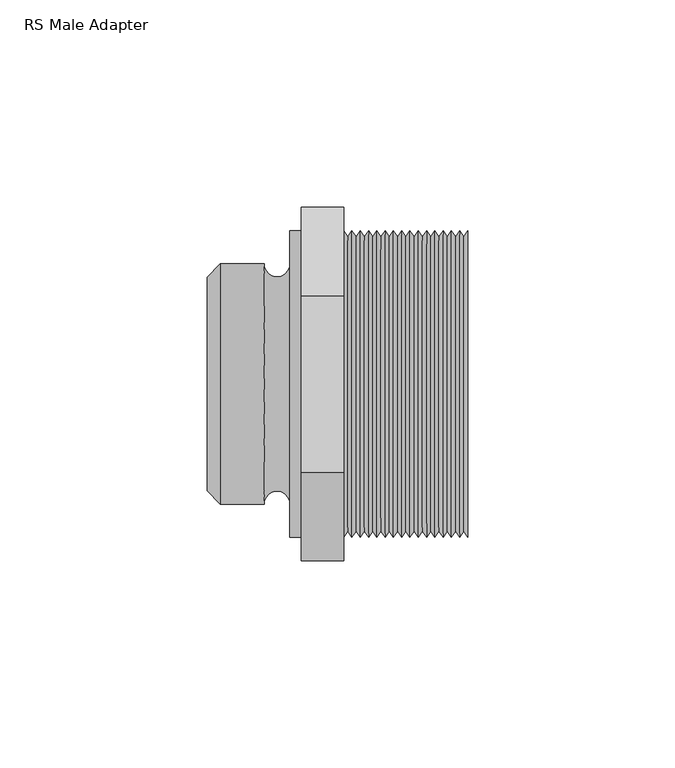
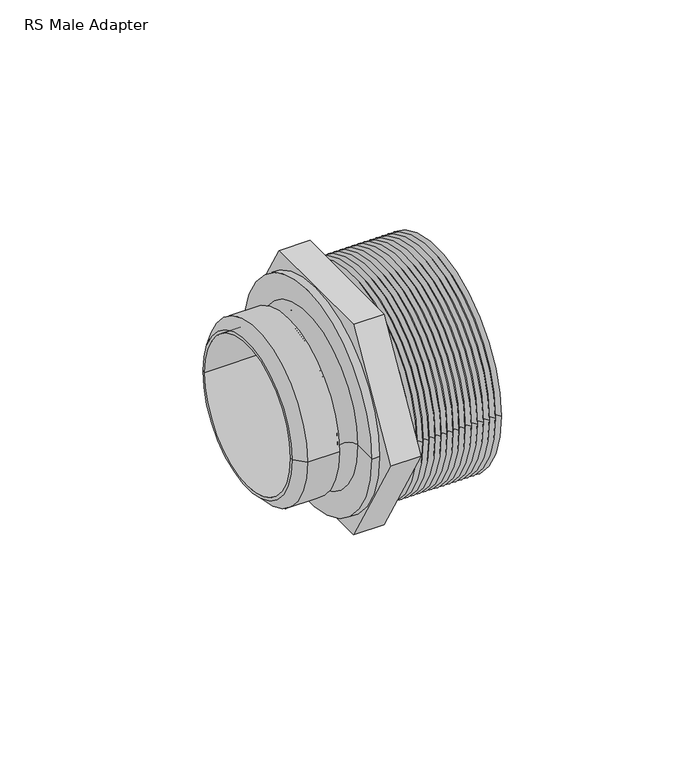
"""IFC4 building model written with IfcOpenShell, lengths in millimetres: pipe fitting geometry, RS Male Adapter : Superpipe RS2 MT Adapter  2 ½”."""

from ifc_helpers import new_model, si_unit, point, frame, origin, origin_2d, place, context, project, spatial, polyline, circle_curve, ellipse_curve, trimmed, segment, composite_curve, outline, extrude, source, transform, mapped, element, save
from ifc_brep_helpers import plane_surface, cylinder_surface, revolved_surface, advanced_brep


def rs_male_adapter_996c7fea(model_context):
    return source(origin(), model_context, "Body", "SolidModel", [
        extrude(outline(polyline([(-42.7239199, 0.0), (-21.36196, 37.0), (21.36196, 37.0), (42.7239199, 0.0), (21.36196, -37.0), (-21.36196, -37.0), (-42.7239199, 0.0)]), holes=[composite_curve([segment(trimmed(circle_curve(origin_2d(), 32.8), [point((0.0, 32.8))], [point((0.0, -32.8))], True, "CARTESIAN"), True, "CONTINUOUS"), segment(trimmed(circle_curve(origin_2d(), 32.8), [point((0.0, -32.8))], [point((0.0, 32.8))], True, "CARTESIAN"), True, "CONTINUOUS")], self_intersect=False)]), frame((22.8, 0.0, 0.0), z_axis=(1.0, 0.0, 0.0), x_axis=(0.0, 1.0, 0.0)), (0.0, 0.0, 1.0), 10.2),
        advanced_brep(
        [(63.0, -37.0, 0.0), (63.0, 37.0, 0.0), (63.0, 32.8, 0.0), (63.0, -32.8, 0.0), (33.0, -32.8, 0.0), (33.0, 32.8, 0.0), (33.0, 37.0, 0.0), (33.0, -37.0, 0.0), (62.0, -35.5, 0.0), (62.0, 35.5, 0.0), (61.0, -37.0, 0.0), (61.0, 37.0, 0.0), (60.0, -35.5, 0.0), (60.0, 35.5, 0.0), (59.0, -37.0, 0.0), (59.0, 37.0, 0.0), (58.0, -35.5, 0.0), (58.0, 35.5, 0.0), (57.0, -37.0, 0.0), (57.0, 37.0, 0.0), (56.0, -35.5, 0.0), (56.0, 35.5, 0.0), (55.0, -37.0, 0.0), (55.0, 37.0, 0.0), (54.0, -35.5, 0.0), (54.0, 35.5, 0.0), (53.0, -37.0, 0.0), (53.0, 37.0, 0.0), (52.0, -35.5, 0.0), (52.0, 35.5, 0.0), (51.0, -37.0, 0.0), (51.0, 37.0, 0.0), (50.0, -35.5, 0.0), (50.0, 35.5, 0.0), (49.0, -37.0, 0.0), (49.0, 37.0, 0.0), (48.0, -35.5, 0.0), (48.0, 35.5, 0.0), (47.0, -37.0, 0.0), (47.0, 37.0, 0.0), (46.0, -35.5, 0.0), (46.0, 35.5, 0.0), (45.0, -37.0, 0.0), (45.0, 37.0, 0.0), (44.0, -35.5, 0.0), (44.0, 35.5, 0.0), (43.0, -37.0, 0.0), (43.0, 37.0, 0.0), (42.0, -35.5, 0.0), (42.0, 35.5, 0.0), (41.0, -37.0, 0.0), (41.0, 37.0, 0.0), (40.0, -35.5, 0.0), (40.0, 35.5, 0.0), (39.0, -37.0, 0.0), (39.0, 37.0, 0.0), (38.0, -35.5, 0.0), (38.0, 35.5, 0.0), (37.0, -37.0, 0.0), (37.0, 37.0, 0.0), (36.0, -35.5, 0.0), (36.0, 35.5, 0.0), (35.0, -37.0, 0.0), (35.0, 37.0, 0.0), (34.0, -35.5, 0.0), (34.0, 35.5, 0.0)],
        [
            (0, 1, circle_curve(frame((63.0, 0.0, 0.0), z_axis=(1.0, 0.0, 0.0), x_axis=(0.0, 1.0, 0.0)), 37.0)),
            (1, 2),
            (2, 3, circle_curve(frame((63.0, 0.0, 0.0), z_axis=(-1.0, 0.0, 0.0), x_axis=(0.0, 1.0, 0.0)), 32.8)),
            (3, 0),
            (4, 5, circle_curve(frame((33.0, 0.0, 0.0), z_axis=(1.0, 0.0, 0.0), x_axis=(0.0, 1.0, 0.0)), 32.8)),
            (5, 6),
            (6, 7, circle_curve(frame((33.0, 0.0, 0.0), z_axis=(-1.0, 0.0, 0.0), x_axis=(0.0, 1.0, 0.0)), 37.0)),
            (7, 4),
            (5, 4, circle_curve(frame((33.0, 0.0, 0.0), z_axis=(1.0, 0.0, 0.0), x_axis=(0.0, 1.0, 0.0)), 32.8)),
            (7, 6, circle_curve(frame((33.0, 0.0, 0.0), z_axis=(-1.0, 0.0, 0.0), x_axis=(0.0, 1.0, 0.0)), 37.0)),
            (1, 0, circle_curve(frame((63.0, 0.0, 0.0), z_axis=(1.0, 0.0, 0.0), x_axis=(0.0, 1.0, 0.0)), 37.0)),
            (3, 2, circle_curve(frame((63.0, 0.0, 0.0), z_axis=(-1.0, 0.0, 0.0), x_axis=(0.0, 1.0, 0.0)), 32.8)),
            (2, 5),
            (4, 3),
            (8, 9, circle_curve(frame((62.0, 0.0, 0.0), z_axis=(1.0, 0.0, 0.0), x_axis=(0.0, 1.0, 0.0)), 35.5)),
            (9, 1),
            (0, 8),
            (9, 8, circle_curve(frame((62.0, 0.0, 0.0), z_axis=(1.0, 0.0, 0.0), x_axis=(0.0, 1.0, 0.0)), 35.5)),
            (10, 11, circle_curve(frame((61.0, 0.0, 0.0), z_axis=(1.0, 0.0, 0.0), x_axis=(0.0, 1.0, 0.0)), 37.0)),
            (11, 9),
            (8, 10),
            (11, 10, circle_curve(frame((61.0, 0.0, 0.0), z_axis=(1.0, 0.0, 0.0), x_axis=(0.0, 1.0, 0.0)), 37.0)),
            (12, 13, circle_curve(frame((60.0, 0.0, 0.0), z_axis=(1.0, 0.0, 0.0), x_axis=(0.0, 1.0, 0.0)), 35.5)),
            (13, 11),
            (10, 12),
            (13, 12, circle_curve(frame((60.0, 0.0, 0.0), z_axis=(1.0, 0.0, 0.0), x_axis=(0.0, 1.0, 0.0)), 35.5)),
            (14, 15, circle_curve(frame((59.0, 0.0, 0.0), z_axis=(1.0, 0.0, 0.0), x_axis=(0.0, 1.0, 0.0)), 37.0)),
            (15, 13),
            (12, 14),
            (15, 14, circle_curve(frame((59.0, 0.0, 0.0), z_axis=(1.0, 0.0, 0.0), x_axis=(0.0, 1.0, 0.0)), 37.0)),
            (16, 17, circle_curve(frame((58.0, 0.0, 0.0), z_axis=(1.0, 0.0, 0.0), x_axis=(0.0, 1.0, 0.0)), 35.5)),
            (17, 15),
            (14, 16),
            (17, 16, circle_curve(frame((58.0, 0.0, 0.0), z_axis=(1.0, 0.0, 0.0), x_axis=(0.0, 1.0, 0.0)), 35.5)),
            (18, 19, circle_curve(frame((57.0, 0.0, 0.0), z_axis=(1.0, 0.0, 0.0), x_axis=(0.0, 1.0, 0.0)), 37.0)),
            (19, 17),
            (16, 18),
            (19, 18, circle_curve(frame((57.0, 0.0, 0.0), z_axis=(1.0, 0.0, 0.0), x_axis=(0.0, 1.0, 0.0)), 37.0)),
            (20, 21, circle_curve(frame((56.0, 0.0, 0.0), z_axis=(1.0, 0.0, 0.0), x_axis=(0.0, 1.0, 0.0)), 35.5)),
            (21, 19),
            (18, 20),
            (21, 20, circle_curve(frame((56.0, 0.0, 0.0), z_axis=(1.0, 0.0, 0.0), x_axis=(0.0, 1.0, 0.0)), 35.5)),
            (22, 23, circle_curve(frame((55.0, 0.0, 0.0), z_axis=(1.0, 0.0, 0.0), x_axis=(0.0, 1.0, 0.0)), 37.0)),
            (23, 21),
            (20, 22),
            (23, 22, circle_curve(frame((55.0, 0.0, 0.0), z_axis=(1.0, 0.0, 0.0), x_axis=(0.0, 1.0, 0.0)), 37.0)),
            (24, 25, circle_curve(frame((54.0, 0.0, 0.0), z_axis=(1.0, 0.0, 0.0), x_axis=(0.0, 1.0, 0.0)), 35.5)),
            (25, 23),
            (22, 24),
            (25, 24, circle_curve(frame((54.0, 0.0, 0.0), z_axis=(1.0, 0.0, 0.0), x_axis=(0.0, 1.0, 0.0)), 35.5)),
            (26, 27, circle_curve(frame((53.0, 0.0, 0.0), z_axis=(1.0, 0.0, 0.0), x_axis=(0.0, 1.0, 0.0)), 37.0)),
            (27, 25),
            (24, 26),
            (27, 26, circle_curve(frame((53.0, 0.0, 0.0), z_axis=(1.0, 0.0, 0.0), x_axis=(0.0, 1.0, 0.0)), 37.0)),
            (28, 29, circle_curve(frame((52.0, 0.0, 0.0), z_axis=(1.0, 0.0, 0.0), x_axis=(0.0, 1.0, 0.0)), 35.5)),
            (29, 27),
            (26, 28),
            (29, 28, circle_curve(frame((52.0, 0.0, 0.0), z_axis=(1.0, 0.0, 0.0), x_axis=(0.0, 1.0, 0.0)), 35.5)),
            (30, 31, circle_curve(frame((51.0, 0.0, 0.0), z_axis=(1.0, 0.0, 0.0), x_axis=(0.0, 1.0, 0.0)), 37.0)),
            (31, 29),
            (28, 30),
            (31, 30, circle_curve(frame((51.0, 0.0, 0.0), z_axis=(1.0, 0.0, 0.0), x_axis=(0.0, 1.0, 0.0)), 37.0)),
            (32, 33, circle_curve(frame((50.0, 0.0, 0.0), z_axis=(1.0, 0.0, 0.0), x_axis=(0.0, 1.0, 0.0)), 35.5)),
            (33, 31),
            (30, 32),
            (33, 32, circle_curve(frame((50.0, 0.0, 0.0), z_axis=(1.0, 0.0, 0.0), x_axis=(0.0, 1.0, 0.0)), 35.5)),
            (34, 35, circle_curve(frame((49.0, 0.0, 0.0), z_axis=(1.0, 0.0, 0.0), x_axis=(0.0, 1.0, 0.0)), 37.0)),
            (35, 33),
            (32, 34),
            (35, 34, circle_curve(frame((49.0, 0.0, 0.0), z_axis=(1.0, 0.0, 0.0), x_axis=(0.0, 1.0, 0.0)), 37.0)),
            (36, 37, circle_curve(frame((48.0, 0.0, 0.0), z_axis=(1.0, 0.0, 0.0), x_axis=(0.0, 1.0, 0.0)), 35.5)),
            (37, 35),
            (34, 36),
            (37, 36, circle_curve(frame((48.0, 0.0, 0.0), z_axis=(1.0, 0.0, 0.0), x_axis=(0.0, 1.0, 0.0)), 35.5)),
            (38, 39, circle_curve(frame((47.0, 0.0, 0.0), z_axis=(1.0, 0.0, 0.0), x_axis=(0.0, 1.0, 0.0)), 37.0)),
            (39, 37),
            (36, 38),
            (39, 38, circle_curve(frame((47.0, 0.0, 0.0), z_axis=(1.0, 0.0, 0.0), x_axis=(0.0, 1.0, 0.0)), 37.0)),
            (40, 41, circle_curve(frame((46.0, 0.0, 0.0), z_axis=(1.0, 0.0, 0.0), x_axis=(0.0, 1.0, 0.0)), 35.5)),
            (41, 39),
            (38, 40),
            (41, 40, circle_curve(frame((46.0, 0.0, 0.0), z_axis=(1.0, 0.0, 0.0), x_axis=(0.0, 1.0, 0.0)), 35.5)),
            (42, 43, circle_curve(frame((45.0, 0.0, 0.0), z_axis=(1.0, 0.0, 0.0), x_axis=(0.0, 1.0, 0.0)), 37.0)),
            (43, 41),
            (40, 42),
            (43, 42, circle_curve(frame((45.0, 0.0, 0.0), z_axis=(1.0, 0.0, 0.0), x_axis=(0.0, 1.0, 0.0)), 37.0)),
            (44, 45, circle_curve(frame((44.0, 0.0, 0.0), z_axis=(1.0, 0.0, 0.0), x_axis=(0.0, 1.0, 0.0)), 35.5)),
            (45, 43),
            (42, 44),
            (45, 44, circle_curve(frame((44.0, 0.0, 0.0), z_axis=(1.0, 0.0, 0.0), x_axis=(0.0, 1.0, 0.0)), 35.5)),
            (46, 47, circle_curve(frame((43.0, 0.0, 0.0), z_axis=(1.0, 0.0, 0.0), x_axis=(0.0, 1.0, 0.0)), 37.0)),
            (47, 45),
            (44, 46),
            (47, 46, circle_curve(frame((43.0, 0.0, 0.0), z_axis=(1.0, 0.0, 0.0), x_axis=(0.0, 1.0, 0.0)), 37.0)),
            (48, 49, circle_curve(frame((42.0, 0.0, 0.0), z_axis=(1.0, 0.0, 0.0), x_axis=(0.0, 1.0, 0.0)), 35.5)),
            (49, 47),
            (46, 48),
            (49, 48, circle_curve(frame((42.0, 0.0, 0.0), z_axis=(1.0, 0.0, 0.0), x_axis=(0.0, 1.0, 0.0)), 35.5)),
            (50, 51, circle_curve(frame((41.0, 0.0, 0.0), z_axis=(1.0, 0.0, 0.0), x_axis=(0.0, 1.0, 0.0)), 37.0)),
            (51, 49),
            (48, 50),
            (51, 50, circle_curve(frame((41.0, 0.0, 0.0), z_axis=(1.0, 0.0, 0.0), x_axis=(0.0, 1.0, 0.0)), 37.0)),
            (52, 53, circle_curve(frame((40.0, 0.0, 0.0), z_axis=(1.0, 0.0, 0.0), x_axis=(0.0, 1.0, 0.0)), 35.5)),
            (53, 51),
            (50, 52),
            (53, 52, circle_curve(frame((40.0, 0.0, 0.0), z_axis=(1.0, 0.0, 0.0), x_axis=(0.0, 1.0, 0.0)), 35.5)),
            (54, 55, circle_curve(frame((39.0, 0.0, 0.0), z_axis=(1.0, 0.0, 0.0), x_axis=(0.0, 1.0, 0.0)), 37.0)),
            (55, 53),
            (52, 54),
            (55, 54, circle_curve(frame((39.0, 0.0, 0.0), z_axis=(1.0, 0.0, 0.0), x_axis=(0.0, 1.0, 0.0)), 37.0)),
            (56, 57, circle_curve(frame((38.0, 0.0, 0.0), z_axis=(1.0, 0.0, 0.0), x_axis=(0.0, 1.0, 0.0)), 35.5)),
            (57, 55),
            (54, 56),
            (57, 56, circle_curve(frame((38.0, 0.0, 0.0), z_axis=(1.0, 0.0, 0.0), x_axis=(0.0, 1.0, 0.0)), 35.5)),
            (58, 59, circle_curve(frame((37.0, 0.0, 0.0), z_axis=(1.0, 0.0, 0.0), x_axis=(0.0, 1.0, 0.0)), 37.0)),
            (59, 57),
            (56, 58),
            (59, 58, circle_curve(frame((37.0, 0.0, 0.0), z_axis=(1.0, 0.0, 0.0), x_axis=(0.0, 1.0, 0.0)), 37.0)),
            (60, 61, circle_curve(frame((36.0, 0.0, 0.0), z_axis=(1.0, 0.0, 0.0), x_axis=(0.0, 1.0, 0.0)), 35.5)),
            (61, 59),
            (58, 60),
            (61, 60, circle_curve(frame((36.0, 0.0, 0.0), z_axis=(1.0, 0.0, 0.0), x_axis=(0.0, 1.0, 0.0)), 35.5)),
            (62, 63, circle_curve(frame((35.0, 0.0, 0.0), z_axis=(1.0, 0.0, 0.0), x_axis=(0.0, 1.0, 0.0)), 37.0)),
            (63, 61),
            (60, 62),
            (63, 62, circle_curve(frame((35.0, 0.0, 0.0), z_axis=(1.0, 0.0, 0.0), x_axis=(0.0, 1.0, 0.0)), 37.0)),
            (64, 65, circle_curve(frame((34.0, 0.0, 0.0), z_axis=(1.0, 0.0, 0.0), x_axis=(0.0, 1.0, 0.0)), 35.5)),
            (65, 63),
            (62, 64),
            (65, 64, circle_curve(frame((34.0, 0.0, 0.0), z_axis=(1.0, 0.0, 0.0), x_axis=(0.0, 1.0, 0.0)), 35.5)),
            (6, 65),
            (64, 7),
        ],
        [
            plane_surface(frame((63.0, 0.0, 0.0), z_axis=(1.0, 0.0, 0.0), x_axis=(0.0, 1.0, 0.0))),
            plane_surface(frame((33.0, 0.0, 0.0), z_axis=(-1.0, 0.0, 0.0), x_axis=(0.0, 1.0, 0.0))),
            revolved_surface(polyline([(33.0, 32.8, 0.0), (63.0, 32.8, 0.0)]), (1997.0, 0.0, 0.0), (-1.0, 0.0, 0.0)),
            revolved_surface(polyline([(63.0, 37.0, 0.0), (62.0, 35.5, 0.0)]), (1997.0, 0.0, 0.0), (-1.0, 0.0, 0.0)),
            revolved_surface(polyline([(62.0, 35.5, 0.0), (61.0, 37.0, 0.0)]), (1997.0, 0.0, 0.0), (-1.0, 0.0, 0.0)),
            revolved_surface(polyline([(61.0, 37.0, 0.0), (60.0, 35.5, 0.0)]), (1997.0, 0.0, 0.0), (-1.0, 0.0, 0.0)),
            revolved_surface(polyline([(60.0, 35.5, 0.0), (59.0, 37.0, 0.0)]), (1997.0, 0.0, 0.0), (-1.0, 0.0, 0.0)),
            revolved_surface(polyline([(59.0, 37.0, 0.0), (58.0, 35.5, 0.0)]), (1997.0, 0.0, 0.0), (-1.0, 0.0, 0.0)),
            revolved_surface(polyline([(58.0, 35.5, 0.0), (57.0, 37.0, 0.0)]), (1997.0, 0.0, 0.0), (-1.0, 0.0, 0.0)),
            revolved_surface(polyline([(57.0, 37.0, 0.0), (56.0, 35.5, 0.0)]), (1997.0, 0.0, 0.0), (-1.0, 0.0, 0.0)),
            revolved_surface(polyline([(56.0, 35.5, 0.0), (55.0, 37.0, 0.0)]), (1997.0, 0.0, 0.0), (-1.0, 0.0, 0.0)),
            revolved_surface(polyline([(55.0, 37.0, 0.0), (54.0, 35.5, 0.0)]), (1997.0, 0.0, 0.0), (-1.0, 0.0, 0.0)),
            revolved_surface(polyline([(54.0, 35.5, 0.0), (53.0, 37.0, 0.0)]), (1997.0, 0.0, 0.0), (-1.0, 0.0, 0.0)),
            revolved_surface(polyline([(53.0, 37.0, 0.0), (52.0, 35.5, 0.0)]), (1997.0, 0.0, 0.0), (-1.0, 0.0, 0.0)),
            revolved_surface(polyline([(52.0, 35.5, 0.0), (51.0, 37.0, 0.0)]), (1997.0, 0.0, 0.0), (-1.0, 0.0, 0.0)),
            revolved_surface(polyline([(51.0, 37.0, 0.0), (50.0, 35.5, 0.0)]), (1997.0, 0.0, 0.0), (-1.0, 0.0, 0.0)),
            revolved_surface(polyline([(50.0, 35.5, 0.0), (49.0, 37.0, 0.0)]), (1997.0, 0.0, 0.0), (-1.0, 0.0, 0.0)),
            revolved_surface(polyline([(49.0, 37.0, 0.0), (48.0, 35.5, 0.0)]), (1997.0, 0.0, 0.0), (-1.0, 0.0, 0.0)),
            revolved_surface(polyline([(48.0, 35.5, 0.0), (47.0, 37.0, 0.0)]), (1997.0, 0.0, 0.0), (-1.0, 0.0, 0.0)),
            revolved_surface(polyline([(47.0, 37.0, 0.0), (46.0, 35.5, 0.0)]), (1997.0, 0.0, 0.0), (-1.0, 0.0, 0.0)),
            revolved_surface(polyline([(46.0, 35.5, 0.0), (45.0, 37.0, 0.0)]), (1997.0, 0.0, 0.0), (-1.0, 0.0, 0.0)),
            revolved_surface(polyline([(45.0, 37.0, 0.0), (44.0, 35.5, 0.0)]), (1997.0, 0.0, 0.0), (-1.0, 0.0, 0.0)),
            revolved_surface(polyline([(44.0, 35.5, 0.0), (43.0, 37.0, 0.0)]), (1997.0, 0.0, 0.0), (-1.0, 0.0, 0.0)),
            revolved_surface(polyline([(43.0, 37.0, 0.0), (42.0, 35.5, 0.0)]), (1997.0, 0.0, 0.0), (-1.0, 0.0, 0.0)),
            revolved_surface(polyline([(42.0, 35.5, 0.0), (41.0, 37.0, 0.0)]), (1997.0, 0.0, 0.0), (-1.0, 0.0, 0.0)),
            revolved_surface(polyline([(41.0, 37.0, 0.0), (40.0, 35.5, 0.0)]), (1997.0, 0.0, 0.0), (-1.0, 0.0, 0.0)),
            revolved_surface(polyline([(40.0, 35.5, 0.0), (39.0, 37.0, 0.0)]), (1997.0, 0.0, 0.0), (-1.0, 0.0, 0.0)),
            revolved_surface(polyline([(39.0, 37.0, 0.0), (38.0, 35.5, 0.0)]), (1997.0, 0.0, 0.0), (-1.0, 0.0, 0.0)),
            revolved_surface(polyline([(38.0, 35.5, 0.0), (37.0, 37.0, 0.0)]), (1997.0, 0.0, 0.0), (-1.0, 0.0, 0.0)),
            revolved_surface(polyline([(37.0, 37.0, 0.0), (36.0, 35.5, 0.0)]), (1997.0, 0.0, 0.0), (-1.0, 0.0, 0.0)),
            revolved_surface(polyline([(36.0, 35.5, 0.0), (35.0, 37.0, 0.0)]), (1997.0, 0.0, 0.0), (-1.0, 0.0, 0.0)),
            revolved_surface(polyline([(35.0, 37.0, 0.0), (34.0, 35.5, 0.0)]), (1997.0, 0.0, 0.0), (-1.0, 0.0, 0.0)),
            revolved_surface(polyline([(34.0, 35.5, 0.0), (33.0, 37.0, 0.0)]), (1997.0, 0.0, 0.0), (-1.0, 0.0, 0.0)),
        ],
        [
            (0, [[1, 2, 3, 4]]),
            (1, [[5, 6, 7, 8]]),
            (1, [[9, -8, 10, -6]]),
            (0, [[11, -4, 12, -2]]),
            (2, [[-3, 13, -5, 14]]),
            (2, [[-12, -14, -9, -13]]),
            (3, [[15, 16, -1, 17]]),
            (3, [[18, -17, -11, -16]]),
            (4, [[19, 20, -15, 21]]),
            (4, [[22, -21, -18, -20]]),
            (5, [[23, 24, -19, 25]]),
            (5, [[26, -25, -22, -24]]),
            (6, [[27, 28, -23, 29]]),
            (6, [[30, -29, -26, -28]]),
            (7, [[31, 32, -27, 33]]),
            (7, [[34, -33, -30, -32]]),
            (8, [[35, 36, -31, 37]]),
            (8, [[38, -37, -34, -36]]),
            (9, [[39, 40, -35, 41]]),
            (9, [[42, -41, -38, -40]]),
            (10, [[43, 44, -39, 45]]),
            (10, [[46, -45, -42, -44]]),
            (11, [[47, 48, -43, 49]]),
            (11, [[50, -49, -46, -48]]),
            (12, [[51, 52, -47, 53]]),
            (12, [[54, -53, -50, -52]]),
            (13, [[55, 56, -51, 57]]),
            (13, [[58, -57, -54, -56]]),
            (14, [[59, 60, -55, 61]]),
            (14, [[62, -61, -58, -60]]),
            (15, [[63, 64, -59, 65]]),
            (15, [[66, -65, -62, -64]]),
            (16, [[67, 68, -63, 69]]),
            (16, [[70, -69, -66, -68]]),
            (17, [[71, 72, -67, 73]]),
            (17, [[74, -73, -70, -72]]),
            (18, [[75, 76, -71, 77]]),
            (18, [[78, -77, -74, -76]]),
            (19, [[79, 80, -75, 81]]),
            (19, [[82, -81, -78, -80]]),
            (20, [[83, 84, -79, 85]]),
            (20, [[86, -85, -82, -84]]),
            (21, [[87, 88, -83, 89]]),
            (21, [[90, -89, -86, -88]]),
            (22, [[91, 92, -87, 93]]),
            (22, [[94, -93, -90, -92]]),
            (23, [[95, 96, -91, 97]]),
            (23, [[98, -97, -94, -96]]),
            (24, [[99, 100, -95, 101]]),
            (24, [[102, -101, -98, -100]]),
            (25, [[103, 104, -99, 105]]),
            (25, [[106, -105, -102, -104]]),
            (26, [[107, 108, -103, 109]]),
            (26, [[110, -109, -106, -108]]),
            (27, [[111, 112, -107, 113]]),
            (27, [[114, -113, -110, -112]]),
            (28, [[115, 116, -111, 117]]),
            (28, [[118, -117, -114, -116]]),
            (29, [[119, 120, -115, 121]]),
            (29, [[122, -121, -118, -120]]),
            (30, [[123, 124, -119, 125]]),
            (30, [[126, -125, -122, -124]]),
            (31, [[127, 128, -123, 129]]),
            (31, [[130, -129, -126, -128]]),
            (32, [[-7, 131, -127, 132]]),
            (32, [[-10, -132, -130, -131]]),
        ],
    ),
        advanced_brep(
        [(20.0, -37.0, 0.0), (20.0, 37.0, 0.0), (22.8, 37.0, 0.0), (22.8, -37.0, 0.0), (20.0, -29.0, 0.0), (20.0, 29.0, 0.0), (22.8, -24.8, 0.0), (22.8, 24.8, 0.0), (0.0, 24.8, 0.0), (0.0, -24.8, 0.0), (0.0, -25.8, 0.0), (0.0, 25.8, 0.0), (3.2, 29.0, 0.0), (3.2, -29.0, 0.0), (13.8, -29.0, 0.0), (13.8, 29.0, 0.0)],
        [
            (0, 1, circle_curve(frame((20.0, 0.0, 0.0), z_axis=(1.0, 0.0, 0.0), x_axis=(0.0, 1.0, 0.0)), 37.0)),
            (1, 2),
            (2, 3, circle_curve(frame((22.8, 0.0, 0.0), z_axis=(-1.0, 0.0, 0.0), x_axis=(0.0, 1.0, 0.0)), 37.0)),
            (3, 0),
            (1, 0, circle_curve(frame((20.0, 0.0, 0.0), z_axis=(1.0, 0.0, 0.0), x_axis=(0.0, 1.0, 0.0)), 37.0)),
            (3, 2, circle_curve(frame((22.8, 0.0, 0.0), z_axis=(-1.0, 0.0, 0.0), x_axis=(0.0, 1.0, 0.0)), 37.0)),
            (4, 5, circle_curve(frame((20.0, 0.0, 0.0), z_axis=(1.0, 0.0, 0.0), x_axis=(0.0, 1.0, 0.0)), 29.0)),
            (5, 1),
            (0, 4),
            (5, 4, circle_curve(frame((20.0, 0.0, 0.0), z_axis=(1.0, 0.0, 0.0), x_axis=(0.0, 1.0, 0.0)), 29.0)),
            (6, 7, circle_curve(frame((22.8, 0.0, 0.0), z_axis=(1.0, 0.0, 0.0), x_axis=(0.0, 1.0, 0.0)), 24.8)),
            (7, 8),
            (8, 9, circle_curve(frame((0.0, 0.0, 0.0), z_axis=(-1.0, 0.0, 0.0), x_axis=(0.0, 1.0, 0.0)), 24.8)),
            (9, 6),
            (7, 6, circle_curve(frame((22.8, 0.0, 0.0), z_axis=(1.0, 0.0, 0.0), x_axis=(0.0, 1.0, 0.0)), 24.8)),
            (9, 8, circle_curve(frame((0.0, 0.0, 0.0), z_axis=(-1.0, 0.0, 0.0), x_axis=(0.0, 1.0, 0.0)), 24.8)),
            (2, 7),
            (6, 3),
            (10, 11, circle_curve(frame((0.0, 0.0, 0.0), z_axis=(1.0, 0.0, 0.0), x_axis=(0.0, 1.0, 0.0)), 25.8)),
            (11, 12),
            (12, 13, circle_curve(frame((3.2, 0.0, 0.0), z_axis=(-1.0, 0.0, 0.0), x_axis=(0.0, 1.0, 0.0)), 29.0)),
            (13, 10),
            (11, 10, circle_curve(frame((0.0, 0.0, 0.0), z_axis=(1.0, 0.0, 0.0), x_axis=(0.0, 1.0, 0.0)), 25.8)),
            (13, 12, circle_curve(frame((3.2, 0.0, 0.0), z_axis=(-1.0, 0.0, 0.0), x_axis=(0.0, 1.0, 0.0)), 29.0)),
            (8, 11),
            (10, 9),
            (14, 15, circle_curve(frame((13.8, 0.0, 0.0), z_axis=(1.0, 0.0, 0.0), x_axis=(0.0, 1.0, 0.0)), 29.0)),
            (15, 5, circle_curve(frame((16.9, 29.0, 0.0), z_axis=(0.0, 0.0, 1.0), x_axis=(1.0, 0.0, 0.0)), 3.1)),
            (4, 14, circle_curve(frame((16.9, -29.0, 0.0), z_axis=(0.0, 0.0, 1.0), x_axis=(1.0, 0.0, 0.0)), 3.1)),
            (15, 14, circle_curve(frame((13.8, 0.0, 0.0), z_axis=(1.0, 0.0, 0.0), x_axis=(0.0, 1.0, 0.0)), 29.0)),
            (12, 15),
            (14, 13),
        ],
        [
            cylinder_surface(frame((1983.0, 0.0, 0.0), z_axis=(-1.0, 0.0, 0.0), x_axis=(0.0, 1.0, 0.0)), 37.0),
            plane_surface(frame((20.0, 0.0, 0.0), z_axis=(-1.0, 0.0, 0.0), x_axis=(0.0, 1.0, 0.0))),
            revolved_surface(polyline([(0.0, 24.8, 0.0), (22.799999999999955, 24.8, 0.0)]), (1983.0, 0.0, 0.0), (-1.0, 0.0, 0.0)),
            plane_surface(frame((22.8, 0.0, 0.0), z_axis=(1.0, 0.0, 0.0), x_axis=(0.0, 1.0, 0.0))),
            revolved_surface(polyline([(3.2, 29.0, 0.0), (0.0, 25.8, 0.0)]), (1983.0, 0.0, 0.0), (-1.0, 0.0, 0.0)),
            plane_surface(frame((0.0, 0.0, 0.0), z_axis=(-1.0, 0.0, 0.0), x_axis=(0.0, 1.0, 0.0))),
            revolved_surface(trimmed(ellipse_curve(frame((16.9, 29.0, 0.0), z_axis=(0.0, 0.0, -1.0), x_axis=(1.0, 0.0, 0.0)), 3.1, 3.1), [point((20.0, 29.0, 0.0))], [point((13.8, 29.0, 0.0))], True, "CARTESIAN"), (1983.0, 0.0, 0.0), (-1.0, 0.0, 0.0)),
            cylinder_surface(frame((1983.0, 0.0, 0.0), z_axis=(-1.0, 0.0, 0.0), x_axis=(0.0, 1.0, 0.0)), 29.0),
        ],
        [
            (0, [[1, 2, 3, 4]]),
            (0, [[5, -4, 6, -2]]),
            (1, [[7, 8, -1, 9]]),
            (1, [[10, -9, -5, -8]]),
            (2, [[11, 12, 13, 14]]),
            (2, [[15, -14, 16, -12]]),
            (3, [[-3, 17, -11, 18]]),
            (3, [[-6, -18, -15, -17]]),
            (4, [[19, 20, 21, 22]]),
            (4, [[23, -22, 24, -20]]),
            (5, [[-13, 25, -19, 26]]),
            (5, [[-16, -26, -23, -25]]),
            (6, [[27, 28, -7, 29]]),
            (6, [[30, -29, -10, -28]]),
            (7, [[-21, 31, -27, 32]]),
            (7, [[-24, -32, -30, -31]]),
        ],
    ),
    ])


if __name__ == "__main__":
    model = new_model("IFC4")
    model_context = context("Model", 3, world=origin())
    ifc_project = project(units=[si_unit("LENGTHUNIT", "METRE", prefix="MILLI")], contexts=[model_context])
    site = spatial("IfcSite", under=ifc_project)
    building = spatial("IfcBuilding", under=site)
    placement = place(None, origin())
    rs_male_adapter_shape = rs_male_adapter_996c7fea(model_context)
    element("IfcPipeFitting", 1, ObjectType="RS Male Adapter : Superpipe RS2 MT Adapter  2 ½”", at=placement, inside=building, context=model_context, shape_type="MappedRepresentation", body=[
        mapped(rs_male_adapter_shape, transform((0.0, 0.0, 0.0), x_axis=(1.0, 0.0, 0.0), y_axis=(0.0, 1.0, 0.0), z_axis=(0.0, 0.0, 1.0))),
    ])
    save(model, "model.ifc")
